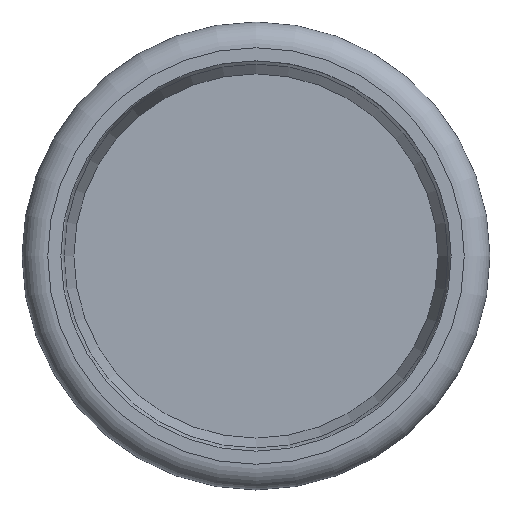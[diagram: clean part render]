
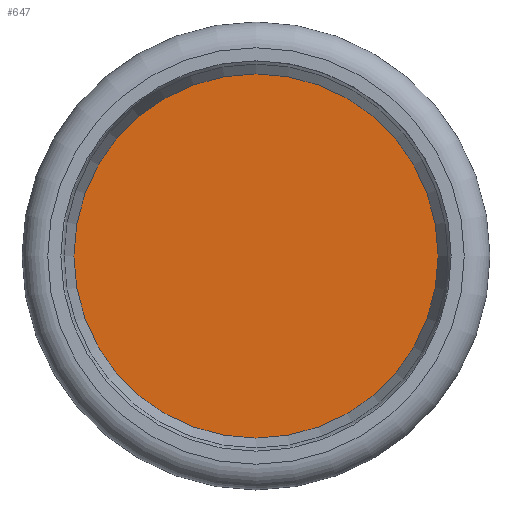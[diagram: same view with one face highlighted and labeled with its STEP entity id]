
A CAD part, left-side view. The second image highlights one B-rep face of the part: STEP entity #647.
In plain terms, the highlighted planar face has unit normal (-1, 0, 0) as drawn and (0, 0, 1) by its records, which use the part's own axes.
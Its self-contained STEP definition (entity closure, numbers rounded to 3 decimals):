
#616=CARTESIAN_POINT('',(44.45,0.,2.0));
#617=VERTEX_POINT('',#616);
#618=CARTESIAN_POINT('',(0.0,0.0,2.0));
#619=DIRECTION('',(0.0,0.0,-1.0));
#620=DIRECTION('',(-1.0,0.0,0.0));
#621=AXIS2_PLACEMENT_3D('',#618,#619,#620);
#622=CIRCLE('',#621,44.45);
#623=EDGE_CURVE('',#617,#617,#622,.T.);
#639=CARTESIAN_POINT('',(0.0,0.0,2.0));
#640=DIRECTION('',(0.0,0.0,-1.0));
#641=DIRECTION('',(-1.0,0.0,0.0));
#642=AXIS2_PLACEMENT_3D('',#639,#640,#641);
#643=PLANE('',#642);
#644=ORIENTED_EDGE('',*,*,#623,.F.);
#645=EDGE_LOOP('',(#644));
#646=FACE_OUTER_BOUND('',#645,.T.);
#647=ADVANCED_FACE('',(#646),#643,.F.);
